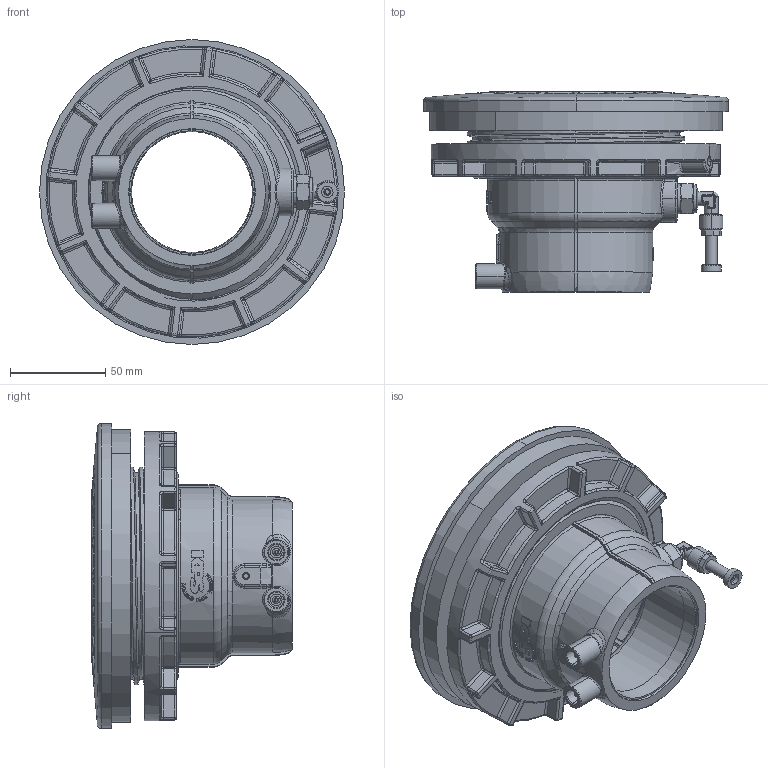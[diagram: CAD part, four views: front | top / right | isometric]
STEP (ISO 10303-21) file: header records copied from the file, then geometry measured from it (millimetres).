
FILE_DESCRIPTION (( 'STEP AP203' ), '1' );
FILE_NAME ('KP_TM75-63SC2A.STEP', '2012-01-18T12:53:20', ( '' ), ( '' ), 'SwSTEP 2.0', 'SolidWorks 2012', '' );
FILE_SCHEMA (( 'CONFIG_CONTROL_DESIGN' ));
Products named in the file (1): KP_TM75-63SC2A
Bounding box: 160 x 105.04 x 160 mm (x, y, z)
Volume: 584205.9 mm3; surface area: 164894.8 mm2
Topology: 2 solids, 10 shells, 1853 faces, 4571 edges, 2661 vertices
Faces by surface type: bspline 604, plane 464, cylinder 399, torus 181, cone 107, sphere 98
Entity records: 77713 total; most frequent: CARTESIAN_POINT 40277, ORIENTED_EDGE 8838, DIRECTION 6493, EDGE_CURVE 4419, VERTEX_POINT 2659, AXIS2_PLACEMENT_3D 2623, EDGE_LOOP 1944, ADVANCED_FACE 1853
